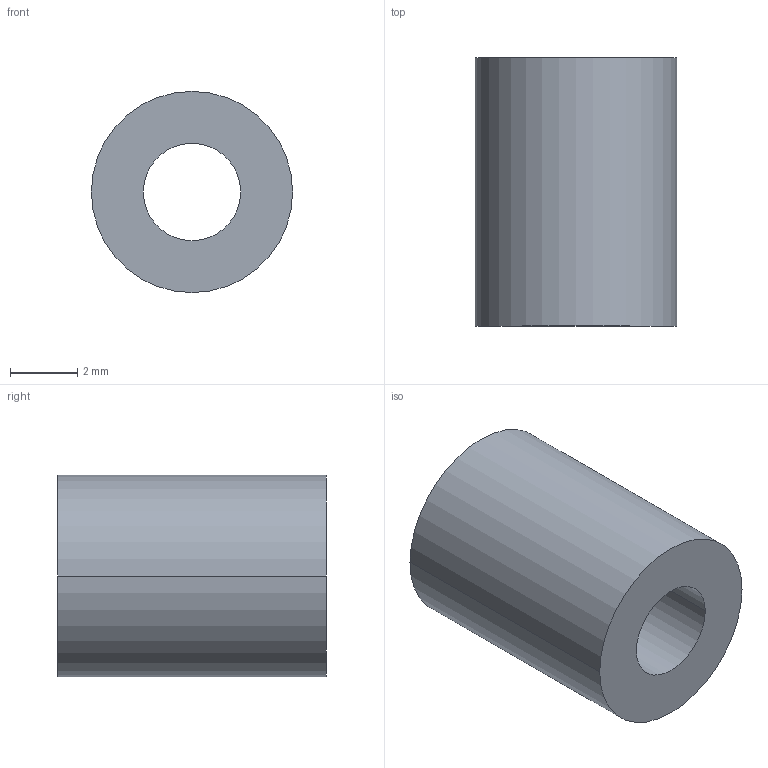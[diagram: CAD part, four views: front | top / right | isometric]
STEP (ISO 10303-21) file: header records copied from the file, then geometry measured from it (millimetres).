
FILE_DESCRIPTION (( 'STEP AP203' ), '1' );
FILE_NAME ('30800.WPP6B2.9.step', '2019-01-23T22:17:54', ( '' ), ( '' ), 'SwSTEP 2.0', 'SolidWorks 2017', '' );
FILE_SCHEMA (( 'CONFIG_CONTROL_DESIGN' ));
Length unit declared in the file: millimetre
Products named in the file (1): 30800.WPP6B2.9
Bounding box: 6 x 8 x 6 mm (x, y, z)
Volume: 171.1 mm3; surface area: 263.6 mm2
Topology: 1 solids, 1 shells, 8 faces, 16 edges, 10 vertices
Faces by surface type: cylinder 4, torus 2, plane 2
Entity records: 297 total; most frequent: DIRECTION 46, CARTESIAN_POINT 35, ORIENTED_EDGE 32, AXIS2_PLACEMENT_3D 21, EDGE_CURVE 16, CIRCLE 12, VERTEX_POINT 10, EDGE_LOOP 10
